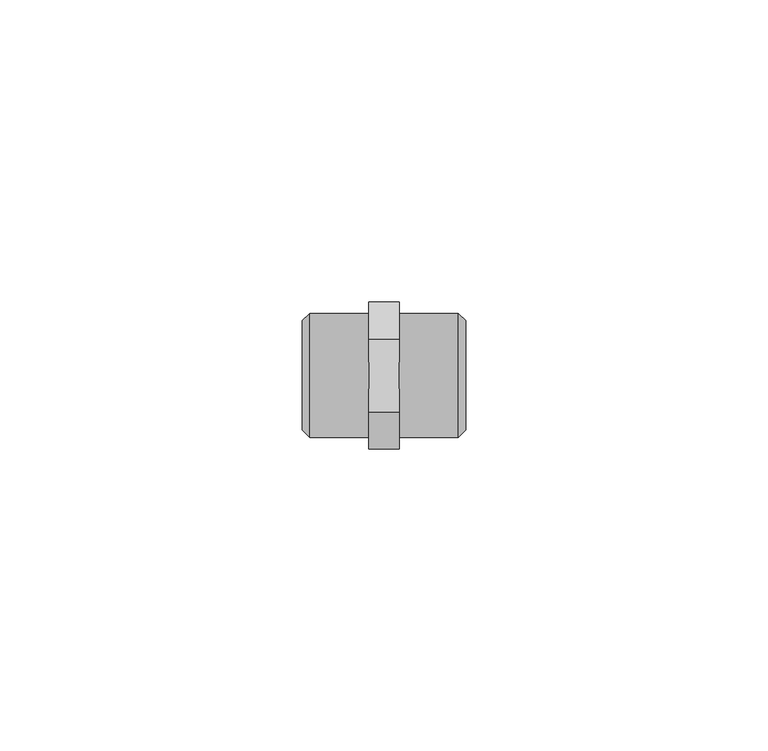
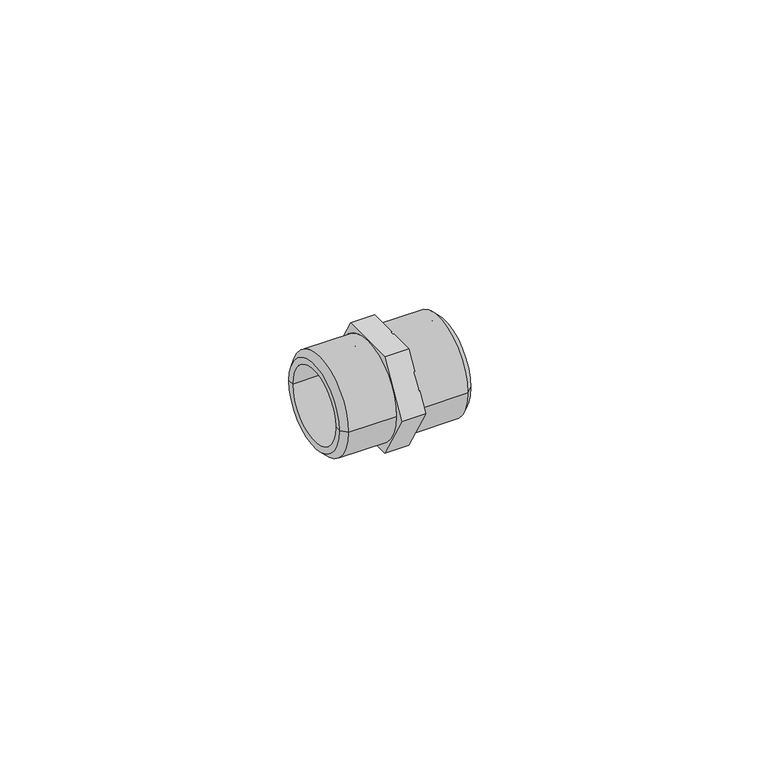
"""IFC4 building model written with IfcOpenShell, lengths in millimetres: pipe fitting geometry, Astra - União Macho - MA : Astra - União Macho - MA."""

from ifc_helpers import new_model, si_unit, frame, origin, place, context, project, spatial, polyline, circle_curve, source, transform, mapped, element, save
from ifc_brep_helpers import plane_surface, cylinder_surface, revolved_surface, advanced_brep


def pipe_fitting_6ace6138(model_context):
    return source(origin(), model_context, "Body", "AdvancedBrep", [
        advanced_brep(
        [(16.0, -9.05, 0.0), (16.0, 9.05, 0.0), (16.0, 7.75, 0.0), (16.0, -7.75, 0.0), (14.8, -10.25, 0.0), (14.8, 10.25, 0.0), (5.0, -10.25, 0.0), (5.0, 10.25, 0.0), (5.0, 7.75, 0.0), (5.0, -7.75, 0.0), (-9.8, -10.25, 0.0), (-9.8, 10.25, 0.0), (0.0, 10.25, 0.0), (0.0, -10.25, 0.0), (-11.0, -9.05, 0.0), (-11.0, 9.05, 0.0), (-11.0, -7.75, 0.0), (-11.0, 7.75, 0.0), (0.0, -7.75, 0.0), (0.0, 7.75, 0.0), (5.0, -12.1243557, 0.0), (5.0, -6.0621778, -10.5), (5.0, 6.0621778, -10.5), (5.0, 12.1243557, 0.0), (5.0, 6.0621778, 10.5), (5.0, -6.0621778, 10.5), (0.0, -12.1243557, 0.0), (0.0, -6.0621778, 10.5), (0.0, 6.0621778, 10.5), (0.0, 12.1243557, 0.0), (0.0, 6.0621778, -10.5), (0.0, -6.0621778, -10.5)],
        [
            (0, 1, circle_curve(frame((16.0, 0.0, 0.0), z_axis=(1.0, 0.0, 0.0), x_axis=(0.0, 1.0, 0.0)), 9.05)),
            (1, 2),
            (2, 3, circle_curve(frame((16.0, 0.0, 0.0), z_axis=(-1.0, 0.0, 0.0), x_axis=(0.0, 1.0, 0.0)), 7.75)),
            (3, 0),
            (1, 0, circle_curve(frame((16.0, 0.0, 0.0), z_axis=(1.0, 0.0, 0.0), x_axis=(0.0, 1.0, 0.0)), 9.05)),
            (3, 2, circle_curve(frame((16.0, 0.0, 0.0), z_axis=(-1.0, 0.0, 0.0), x_axis=(0.0, 1.0, 0.0)), 7.75)),
            (0, 4),
            (4, 5, circle_curve(frame((14.8, 0.0, 0.0), z_axis=(1.0, 0.0, 0.0), x_axis=(0.0, 1.0, 0.0)), 10.25)),
            (5, 1),
            (5, 4, circle_curve(frame((14.8, 0.0, 0.0), z_axis=(1.0, 0.0, 0.0), x_axis=(0.0, 1.0, 0.0)), 10.25)),
            (4, 6),
            (6, 7, circle_curve(frame((5.0, 0.0, 0.0), z_axis=(1.0, 0.0, 0.0), x_axis=(0.0, 1.0, 0.0)), 10.25)),
            (7, 5),
            (7, 6, circle_curve(frame((5.0, 0.0, 0.0), z_axis=(1.0, 0.0, 0.0), x_axis=(0.0, 1.0, 0.0)), 10.25)),
            (2, 8),
            (8, 9, circle_curve(frame((5.0, 0.0, 0.0), z_axis=(-1.0, 0.0, 0.0), x_axis=(0.0, 1.0, 0.0)), 7.75)),
            (9, 3),
            (9, 8, circle_curve(frame((5.0, 0.0, 0.0), z_axis=(-1.0, 0.0, 0.0), x_axis=(0.0, 1.0, 0.0)), 7.75)),
            (10, 11, circle_curve(frame((-9.8, 0.0, 0.0), z_axis=(1.0, 0.0, 0.0), x_axis=(0.0, 1.0, 0.0)), 10.25)),
            (11, 12),
            (12, 13, circle_curve(frame((0.0, 0.0, 0.0), z_axis=(-1.0, 0.0, 0.0), x_axis=(0.0, 1.0, 0.0)), 10.25)),
            (13, 10),
            (11, 10, circle_curve(frame((-9.8, 0.0, 0.0), z_axis=(1.0, 0.0, 0.0), x_axis=(0.0, 1.0, 0.0)), 10.25)),
            (13, 12, circle_curve(frame((0.0, 0.0, 0.0), z_axis=(-1.0, 0.0, 0.0), x_axis=(0.0, 1.0, 0.0)), 10.25)),
            (10, 14),
            (14, 15, circle_curve(frame((-11.0, 0.0, 0.0), z_axis=(1.0, 0.0, 0.0), x_axis=(0.0, 1.0, 0.0)), 9.05)),
            (15, 11),
            (15, 14, circle_curve(frame((-11.0, 0.0, 0.0), z_axis=(1.0, 0.0, 0.0), x_axis=(0.0, 1.0, 0.0)), 9.05)),
            (14, 16),
            (16, 17, circle_curve(frame((-11.0, 0.0, 0.0), z_axis=(1.0, 0.0, 0.0), x_axis=(0.0, 1.0, 0.0)), 7.75)),
            (17, 15),
            (17, 16, circle_curve(frame((-11.0, 0.0, 0.0), z_axis=(1.0, 0.0, 0.0), x_axis=(0.0, 1.0, 0.0)), 7.75)),
            (16, 18),
            (18, 19, circle_curve(frame((0.0, 0.0, 0.0), z_axis=(1.0, 0.0, 0.0), x_axis=(0.0, 1.0, 0.0)), 7.75)),
            (19, 17),
            (19, 18, circle_curve(frame((0.0, 0.0, 0.0), z_axis=(1.0, 0.0, 0.0), x_axis=(0.0, 1.0, 0.0)), 7.75)),
            (20, 21),
            (21, 22),
            (22, 23),
            (23, 24),
            (24, 25),
            (25, 20),
            (26, 27),
            (27, 28),
            (28, 29),
            (29, 30),
            (30, 31),
            (31, 26),
            (20, 26),
            (31, 21),
            (30, 22),
            (29, 23),
            (28, 24),
            (27, 25),
        ],
        [
            plane_surface(frame((16.0, 0.0, 0.0), z_axis=(1.0, 0.0, 0.0), x_axis=(0.0, 1.0, 0.0))),
            revolved_surface(polyline([(16.0, 9.05, 0.0), (14.8, 10.25, 0.0)]), (-11.0, 0.0, 0.0), (-1.0, 0.0, 0.0)),
            cylinder_surface(frame((-11.0, 0.0, 0.0), z_axis=(-1.0, 0.0, 0.0), x_axis=(0.0, 1.0, 0.0)), 10.25),
            revolved_surface(polyline([(5.0, 7.75, 0.0), (16.0, 7.75, 0.0)]), (-11.0, 0.0, 0.0), (-1.0, 0.0, 0.0)),
            revolved_surface(polyline([(-9.8, 10.25, 0.0), (-11.0, 9.05, 0.0)]), (-11.0, 0.0, 0.0), (-1.0, 0.0, 0.0)),
            plane_surface(frame((-11.0, 0.0, 0.0), z_axis=(-1.0, 0.0, 0.0), x_axis=(0.0, 1.0, 0.0))),
            revolved_surface(polyline([(-11.0, 7.75, 0.0), (0.0, 7.75, 0.0)]), (-11.0, 0.0, 0.0), (-1.0, 0.0, 0.0)),
            plane_surface(frame((5.0, -12.1243557, 0.0), z_axis=(1.0, 0.0, 0.0), x_axis=(0.0, 0.5000000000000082, -0.8660254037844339))),
            plane_surface(frame((0.0, -12.1243557, 0.0), z_axis=(-1.0, 0.0, 0.0), x_axis=(0.0, -0.5000000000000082, 0.8660254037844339))),
            plane_surface(frame((5.0, -12.1243557, 0.0), z_axis=(0.0, -0.8660254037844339, -0.5000000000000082), x_axis=(-1.0, 0.0, 0.0))),
            plane_surface(frame((5.0, -6.0621778, -10.5), z_axis=(0.0, 0.0, -1.0), x_axis=(-1.0, 0.0, 0.0))),
            plane_surface(frame((5.0, 6.0621778, -10.5), z_axis=(0.0, 0.8660254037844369, -0.5000000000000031), x_axis=(-1.0, 0.0, 0.0))),
            plane_surface(frame((5.0, 12.1243557, 0.0), z_axis=(0.0, 0.8660254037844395, 0.4999999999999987), x_axis=(-1.0, 0.0, 0.0))),
            plane_surface(frame((5.0, 6.0621778, 10.5), z_axis=(0.0, 0.0, 1.0), x_axis=(-1.0, 0.0, 0.0))),
            plane_surface(frame((5.0, -6.0621778, 10.5), z_axis=(0.0, -0.8660254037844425, 0.49999999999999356), x_axis=(-1.0, 0.0, 0.0))),
        ],
        [
            (0, [[1, 2, 3, 4]]),
            (0, [[-2, 5, -4, 6]]),
            (1, [[-1, 7, 8, 9]]),
            (1, [[-5, -9, 10, -7]]),
            (2, [[-8, 11, 12, 13]]),
            (2, [[-10, -13, 14, -11]]),
            (3, [[-3, 15, 16, 17]]),
            (3, [[-6, -17, 18, -15]]),
            (2, [[19, 20, 21, 22]]),
            (2, [[-20, 23, -22, 24]]),
            (4, [[-19, 25, 26, 27]]),
            (4, [[-23, -27, 28, -25]]),
            (5, [[-26, 29, 30, 31]]),
            (5, [[-28, -31, 32, -29]]),
            (6, [[-30, 33, 34, 35]]),
            (6, [[-32, -35, 36, -33]]),
            (7, [[-16, -18]]),
            (7, [[37, 38, 39, 40, 41, 42], [-12, -14]]),
            (8, [[-34, -36]]),
            (8, [[43, 44, 45, 46, 47, 48], [-21, -24]]),
            (9, [[-37, 49, -48, 50]]),
            (10, [[-38, -50, -47, 51]]),
            (11, [[-39, -51, -46, 52]]),
            (12, [[-40, -52, -45, 53]]),
            (13, [[-41, -53, -44, 54]]),
            (14, [[-42, -54, -43, -49]]),
        ],
    ),
    ])


if __name__ == "__main__":
    model = new_model("IFC4")
    model_context = context("Model", 3, world=origin())
    ifc_project = project(units=[si_unit("LENGTHUNIT", "METRE", prefix="MILLI")], contexts=[model_context])
    site = spatial("IfcSite", under=ifc_project)
    building = spatial("IfcBuilding", under=site)
    placement = place(None, origin())
    pipe_fitting_shape = pipe_fitting_6ace6138(model_context)
    element("IfcPipeFitting", 1, ObjectType="Astra - União Macho - MA : Astra - União Macho - MA", at=placement, inside=building, context=model_context, shape_type="MappedRepresentation", body=[
        mapped(pipe_fitting_shape, transform((0.0, 0.0, 0.0), x_axis=(1.0, 0.0, 0.0), y_axis=(0.0, 1.0, 0.0), z_axis=(0.0, 0.0, 1.0))),
    ])
    save(model, "model.ifc")
